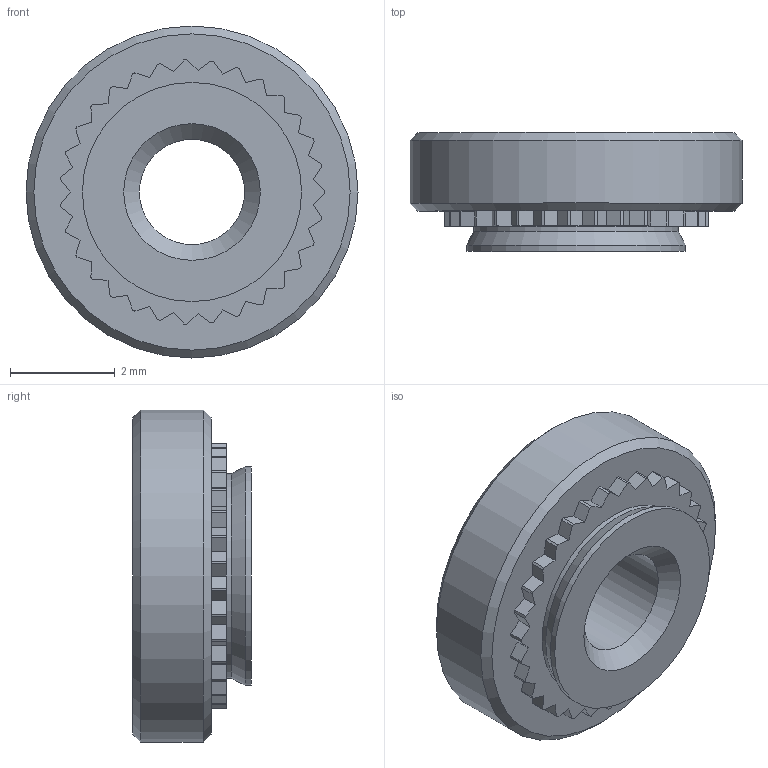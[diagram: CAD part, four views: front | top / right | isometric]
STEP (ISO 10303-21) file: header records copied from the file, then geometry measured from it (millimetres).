
FILE_DESCRIPTION(/* description */ (''),/* implementation_level */ '2;1');
FILE_NAME(/* name */ 'C:\Users\keval.kumar\Desktop\Fastit\Clinch nut\M2.5\Clinch Nut_M2.5_0.stp',/* time_stamp */ '2024-03-14T09:28:41+06:00',/* author */ ('keval.kumar'),/* organization */ (''),/* preprocessor_version */ 'ST-DEVELOPER v18.1',/* originating_system */ 'Autodesk Inventor 2022',/* authorisation */ '');
FILE_SCHEMA (('AUTOMOTIVE_DESIGN { 1 0 10303 214 3 1 1 }'));
Length unit declared in the file: millimetre
Products named in the file (1): Clinch Nut_M3_0
Bounding box: 6.35 x 2.27 x 6.35 mm (x, y, z)
Volume: 50.8 mm3; surface area: 109.8 mm2
Topology: 1 solids, 1 shells, 106 faces, 303 edges, 201 vertices
Faces by surface type: plane 66, cylinder 35, cone 5
Full cylindrical faces by diameter (mm): 2.013 x1, 3.91 x1, 4.19 x1, 6.35 x1
Entity records: 3507 total; most frequent: CARTESIAN_POINT 611, ORIENTED_EDGE 606, DIRECTION 594, EDGE_CURVE 303, LINE 226, VECTOR 226, VERTEX_POINT 201, AXIS2_PLACEMENT_3D 184
